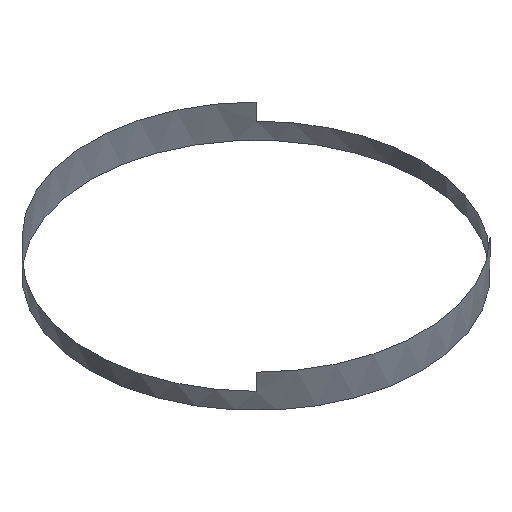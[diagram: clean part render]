
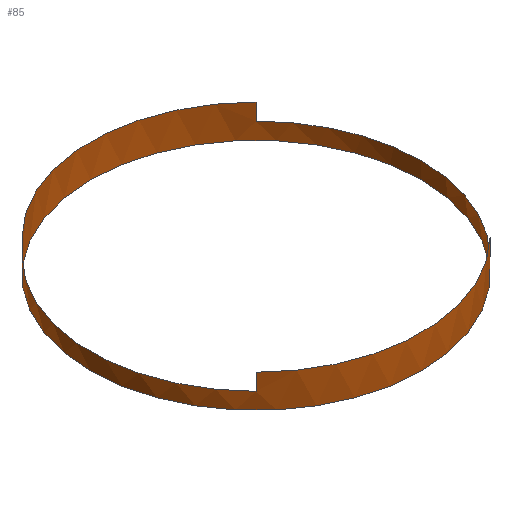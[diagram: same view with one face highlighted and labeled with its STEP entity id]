
A CAD part, isometric view. The second image highlights one B-rep face of the part: STEP entity #85.
In plain terms, the highlighted cylindrical face has radius 10 mm (diameter 20 mm), a full revolution.
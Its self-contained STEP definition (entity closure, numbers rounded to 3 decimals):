
#1=CARTESIAN_POINT('',(0.,0.,0.));
#2=CARTESIAN_POINT('',(0.,0.,1.));
#3=CARTESIAN_POINT('',(0.,0.,-1.));
#10=DIRECTION('',(0.,0.,1.));
#11=DIRECTION('',(1.,0.,0.));
#12=AXIS2_PLACEMENT_3D('',#1,#10,#11);
#13=AXIS2_PLACEMENT_3D('',#2,#10,#11);
#14=AXIS2_PLACEMENT_3D('',#3,#10,#11);
#20=CARTESIAN_POINT('',(7.071,7.071,1.));
#21=CARTESIAN_POINT('',(-7.071,7.071,1.));
#22=CARTESIAN_POINT('',(-7.071,7.071,0.));
#23=CARTESIAN_POINT('',(-7.071,-7.071,0.));
#24=CARTESIAN_POINT('',(-7.071,-7.071,1.));
#25=CARTESIAN_POINT('',(7.071,-7.071,1.));
#26=CARTESIAN_POINT('',(7.071,-7.071,0.));
#27=CARTESIAN_POINT('',(7.071,7.071,0.));
#28=CARTESIAN_POINT('',(10.,0.,-1.));
#30=VERTEX_POINT('',#20);
#31=VERTEX_POINT('',#21);
#32=VERTEX_POINT('',#22);
#33=VERTEX_POINT('',#23);
#34=VERTEX_POINT('',#24);
#35=VERTEX_POINT('',#25);
#36=VERTEX_POINT('',#26);
#37=VERTEX_POINT('',#27);
#38=VERTEX_POINT('',#28);
#40=CIRCLE('',#13,10.);
#41=CIRCLE('',#12,10.);
#42=CIRCLE('',#14,10.);
#43=DIRECTION('',(0.,0.,-1.));
#44=VECTOR('',#43,1.);
#45=LINE('',#21,#44);
#46=DIRECTION('',(0.,0.,1.));
#47=VECTOR('',#46,1.);
#48=LINE('',#23,#47);
#49=LINE('',#25,#44);
#50=LINE('',#27,#47);
#60=EDGE_CURVE('',#30,#31,#40,.T.);
#61=EDGE_CURVE('',#31,#32,#45,.T.);
#62=EDGE_CURVE('',#32,#33,#41,.T.);
#63=EDGE_CURVE('',#33,#34,#48,.T.);
#64=EDGE_CURVE('',#34,#35,#40,.T.);
#65=EDGE_CURVE('',#35,#36,#49,.T.);
#66=EDGE_CURVE('',#36,#37,#41,.T.);
#67=EDGE_CURVE('',#37,#30,#50,.T.);
#68=EDGE_CURVE('',#38,#38,#42,.T.);
#70=ORIENTED_EDGE('',*,*,#60,.T.);
#71=ORIENTED_EDGE('',*,*,#61,.T.);
#72=ORIENTED_EDGE('',*,*,#62,.T.);
#73=ORIENTED_EDGE('',*,*,#63,.T.);
#74=ORIENTED_EDGE('',*,*,#64,.T.);
#75=ORIENTED_EDGE('',*,*,#65,.T.);
#76=ORIENTED_EDGE('',*,*,#66,.T.);
#77=ORIENTED_EDGE('',*,*,#67,.T.);
#78=ORIENTED_EDGE('',*,*,#68,.F.);
#80=EDGE_LOOP('',(#70,#71,#72,#73,#74,#75,#76,#77));
#81=FACE_OUTER_BOUND('',#80,.T.);
#82=EDGE_LOOP('',(#78));
#83=FACE_BOUND('',#82,.T.);
#84=CYLINDRICAL_SURFACE('',#12,10.);
#85=ADVANCED_FACE('',(#81,#83),#84,.T.);
